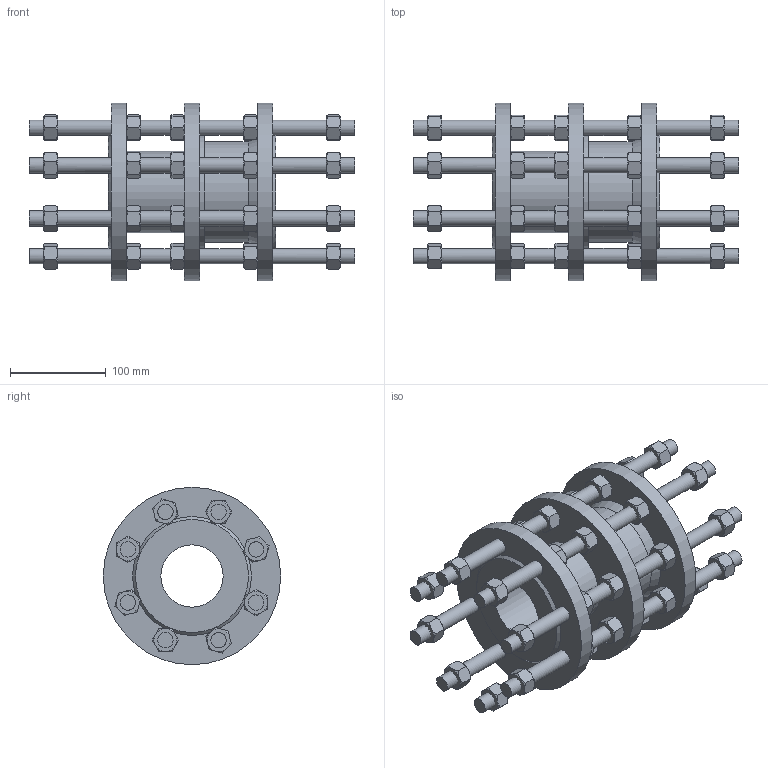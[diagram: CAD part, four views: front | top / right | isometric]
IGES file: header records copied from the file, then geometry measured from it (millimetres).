
Start section: SolidWorks IGES file using analytic representation for surfaces
Global section: file name: X:\AR\CV\873\873-0065-00-741000\873006500741000.IGS; native system: SolidWorks 2020; preprocessor: SolidWorks 2020; author: m.lucatello; date: 211105.090331; units: millimetre
Bounding box: 340 x 185 x 185 mm (x, y, z)
Surface area: 437146.7 mm2 (no closed solid volume)
Topology: 0 solids, 0 shells, 907 faces, 3798 edges, 3716 vertices
Faces by surface type: revolution 562, bspline 345
